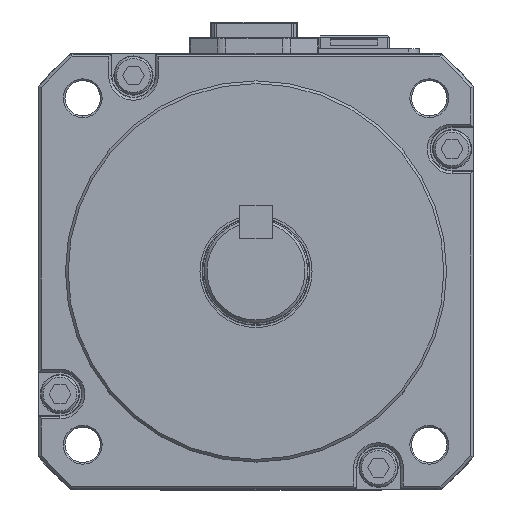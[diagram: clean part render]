
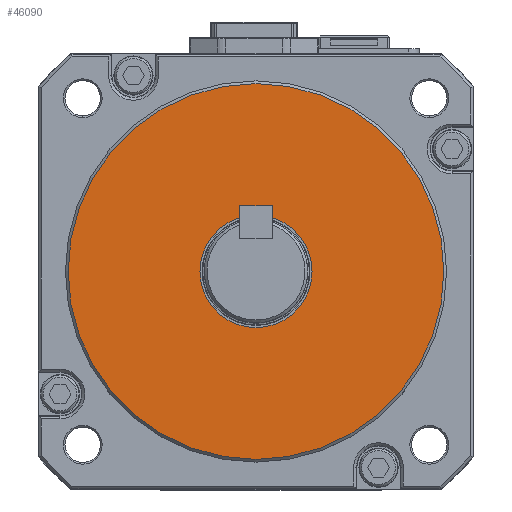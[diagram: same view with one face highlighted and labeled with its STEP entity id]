
A CAD part, top view. The second image highlights one B-rep face of the part: STEP entity #46090.
In plain terms, the highlighted planar face has unit normal (0, 0, 1).
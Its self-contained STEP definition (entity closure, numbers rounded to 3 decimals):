
#677 = CARTESIAN_POINT ( 'NONE',  ( 0., 0., 13. ) ) ;
#957 = DIRECTION ( 'NONE',  ( 1., 0., 0. ) ) ;
#5609 = EDGE_LOOP ( 'NONE', ( #61781 ) ) ;
#6575 = DIRECTION ( 'NONE',  ( 1., 0., 0. ) ) ;
#9090 = ORIENTED_EDGE ( 'NONE', *, *, #39248, .T. ) ;
#14402 = FACE_OUTER_BOUND ( 'NONE', #35046, .T. ) ;
#30284 = DIRECTION ( 'NONE',  ( 0., 0., 1. ) ) ;
#34783 = AXIS2_PLACEMENT_3D ( 'NONE', #677, #44731, #39893 ) ;
#35046 = EDGE_LOOP ( 'NONE', ( #9090 ) ) ;
#35627 = DIRECTION ( 'NONE',  ( 0., 0., 1. ) ) ;
#37802 = VERTEX_POINT ( 'NONE', #62790 ) ;
#38927 = CIRCLE ( 'NONE', #34783, 34.5 ) ;
#39248 = EDGE_CURVE ( 'NONE', #37802, #37802, #38927, .T. ) ;
#39893 = DIRECTION ( 'NONE',  ( 1., 0., 0. ) ) ;
#44731 = DIRECTION ( 'NONE',  ( 0., 0., 1. ) ) ;
#45645 = CARTESIAN_POINT ( 'NONE',  ( 0., 0., 13. ) ) ;
#46090 = ADVANCED_FACE ( 'NONE', ( #58447, #14402 ), #53572, .T. ) ;
#46538 = EDGE_CURVE ( 'NONE', #60425, #60425, #53872, .T. ) ;
#53572 = PLANE ( 'NONE',  #54832 ) ;
#53872 = CIRCLE ( 'NONE', #56949, 10.3 ) ;
#54565 = CARTESIAN_POINT ( 'NONE',  ( 0., 0., 13. ) ) ;
#54832 = AXIS2_PLACEMENT_3D ( 'NONE', #54565, #30284, #6575 ) ;
#55221 = CARTESIAN_POINT ( 'NONE',  ( 10.3, 0., 13. ) ) ;
#56949 = AXIS2_PLACEMENT_3D ( 'NONE', #45645, #35627, #957 ) ;
#58447 = FACE_BOUND ( 'NONE', #5609, .T. ) ;
#60425 = VERTEX_POINT ( 'NONE', #55221 ) ;
#61781 = ORIENTED_EDGE ( 'NONE', *, *, #46538, .F. ) ;
#62790 = CARTESIAN_POINT ( 'NONE',  ( 34.5, 0., 13. ) ) ;
